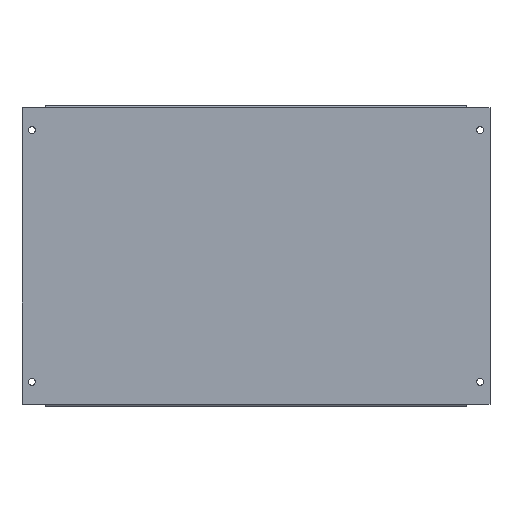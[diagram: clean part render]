
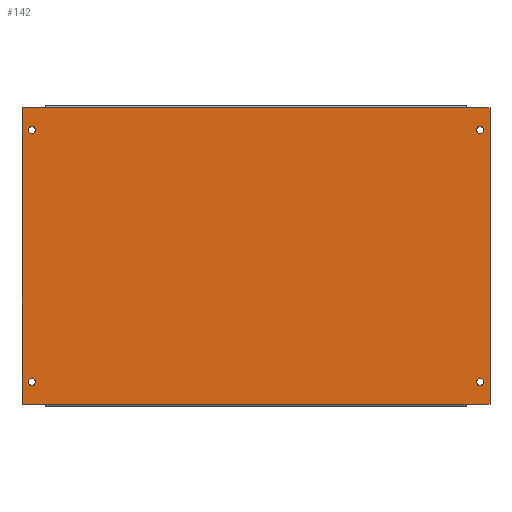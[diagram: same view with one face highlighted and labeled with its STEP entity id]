
A CAD part, top view. The second image highlights one B-rep face of the part: STEP entity #142.
In plain terms, the highlighted planar face has unit normal (0, 0, 1).
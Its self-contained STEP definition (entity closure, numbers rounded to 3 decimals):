
#5 = CARTESIAN_POINT ( 'NONE',  ( -232.5, 147.1, 1.2 ) ) ;
#11 = DIRECTION ( 'NONE',  ( -1., 0., 0. ) ) ;
#14 = DIRECTION ( 'NONE',  ( 1., 0., 0. ) ) ;
#17 = DIRECTION ( 'NONE',  ( 0., 0., -1. ) ) ;
#41 = EDGE_CURVE ( 'NONE', #316, #317, #172, .T. ) ;
#45 = EDGE_CURVE ( 'NONE', #310, #309, #673, .T. ) ;
#46 = EDGE_CURVE ( 'NONE', #312, #313, #91, .T. ) ;
#47 = EDGE_CURVE ( 'NONE', #317, #316, #100, .T. ) ;
#50 = EDGE_CURVE ( 'NONE', #305, #304, #638, .T. ) ;
#51 = EDGE_CURVE ( 'NONE', #307, #306, #639, .T. ) ;
#56 = EDGE_CURVE ( 'NONE', #308, #307, #634, .T. ) ;
#57 = EDGE_CURVE ( 'NONE', #309, #308, #628, .T. ) ;
#58 = EDGE_CURVE ( 'NONE', #304, #311, #623, .T. ) ;
#59 = EDGE_CURVE ( 'NONE', #327, #325, #95, .T. ) ;
#67 = CIRCLE ( 'NONE', #701, 3.5 ) ;
#70 = EDGE_CURVE ( 'NONE', #323, #321, #131, .T. ) ;
#89 = EDGE_CURVE ( 'NONE', #325, #327, #93, .T. ) ;
#90 = CIRCLE ( 'NONE', #697, 3.5 ) ;
#91 = CIRCLE ( 'NONE', #578, 3.5 ) ;
#93 = CIRCLE ( 'NONE', #588, 3.5 ) ;
#95 = CIRCLE ( 'NONE', #558, 3.5 ) ;
#100 = CIRCLE ( 'NONE', #587, 3.5 ) ;
#110 = FACE_OUTER_BOUND ( 'NONE', #490, .T. ) ;
#112 = FACE_BOUND ( 'NONE', #492, .T. ) ;
#113 = FACE_BOUND ( 'NONE', #489, .T. ) ;
#114 = AXIS2_PLACEMENT_3D ( 'NONE', #852, #853, #854 ) ;
#115 = FACE_BOUND ( 'NONE', #491, .T. ) ;
#131 = CIRCLE ( 'NONE', #586, 3.5 ) ;
#142 = ADVANCED_FACE ( 'NONE', ( #115, #112, #113, #110, #598 ), #851, .T. ) ;
#163 = EDGE_CURVE ( 'NONE', #321, #323, #67, .T. ) ;
#164 = EDGE_CURVE ( 'NONE', #311, #310, #921, .T. ) ;
#165 = EDGE_CURVE ( 'NONE', #306, #305, #924, .T. ) ;
#167 = EDGE_CURVE ( 'NONE', #313, #312, #90, .T. ) ;
#172 = CIRCLE ( 'NONE', #212, 3.5 ) ;
#212 = AXIS2_PLACEMENT_3D ( 'NONE', #610, #600, #684 ) ;
#304 = VERTEX_POINT ( 'NONE', #993 ) ;
#305 = VERTEX_POINT ( 'NONE', #994 ) ;
#306 = VERTEX_POINT ( 'NONE', #995 ) ;
#307 = VERTEX_POINT ( 'NONE', #996 ) ;
#308 = VERTEX_POINT ( 'NONE', #997 ) ;
#309 = VERTEX_POINT ( 'NONE', #998 ) ;
#310 = VERTEX_POINT ( 'NONE', #999 ) ;
#311 = VERTEX_POINT ( 'NONE', #1000 ) ;
#312 = VERTEX_POINT ( 'NONE', #1001 ) ;
#313 = VERTEX_POINT ( 'NONE', #1002 ) ;
#316 = VERTEX_POINT ( 'NONE', #1005 ) ;
#317 = VERTEX_POINT ( 'NONE', #1006 ) ;
#321 = VERTEX_POINT ( 'NONE', #1010 ) ;
#323 = VERTEX_POINT ( 'NONE', #1012 ) ;
#325 = VERTEX_POINT ( 'NONE', #1014 ) ;
#327 = VERTEX_POINT ( 'NONE', #1016 ) ;
#344 = ORIENTED_EDGE ( 'NONE', *, *, #163, .F. ) ;
#345 = ORIENTED_EDGE ( 'NONE', *, *, #41, .T. ) ;
#346 = ORIENTED_EDGE ( 'NONE', *, *, #164, .T. ) ;
#347 = ORIENTED_EDGE ( 'NONE', *, *, #70, .F. ) ;
#348 = ORIENTED_EDGE ( 'NONE', *, *, #47, .T. ) ;
#349 = ORIENTED_EDGE ( 'NONE', *, *, #46, .F. ) ;
#350 = ORIENTED_EDGE ( 'NONE', *, *, #167, .F. ) ;
#351 = ORIENTED_EDGE ( 'NONE', *, *, #57, .T. ) ;
#352 = ORIENTED_EDGE ( 'NONE', *, *, #45, .T. ) ;
#353 = ORIENTED_EDGE ( 'NONE', *, *, #56, .T. ) ;
#354 = ORIENTED_EDGE ( 'NONE', *, *, #51, .T. ) ;
#355 = ORIENTED_EDGE ( 'NONE', *, *, #165, .T. ) ;
#356 = ORIENTED_EDGE ( 'NONE', *, *, #50, .T. ) ;
#357 = ORIENTED_EDGE ( 'NONE', *, *, #58, .T. ) ;
#359 = ORIENTED_EDGE ( 'NONE', *, *, #59, .T. ) ;
#360 = ORIENTED_EDGE ( 'NONE', *, *, #89, .T. ) ;
#489 = EDGE_LOOP ( 'NONE', ( #349, #350 ) ) ;
#490 = EDGE_LOOP ( 'NONE', ( #346, #352, #351, #353, #354, #355, #356, #357 ) ) ;
#491 = EDGE_LOOP ( 'NONE', ( #344, #347 ) ) ;
#492 = EDGE_LOOP ( 'NONE', ( #345, #348 ) ) ;
#503 = EDGE_LOOP ( 'NONE', ( #360, #359 ) ) ;
#531 = DIRECTION ( 'NONE',  ( 1., 0., 0. ) ) ;
#532 = DIRECTION ( 'NONE',  ( 0., 0., 1. ) ) ;
#533 = CARTESIAN_POINT ( 'NONE',  ( 222.75, -125., 1.2 ) ) ;
#552 = VECTOR ( 'NONE', #11, 1000. ) ;
#556 = VECTOR ( 'NONE', #631, 1000. ) ;
#558 = AXIS2_PLACEMENT_3D ( 'NONE', #629, #17, #14 ) ;
#564 = VECTOR ( 'NONE', #636, 1000. ) ;
#570 = VECTOR ( 'NONE', #640, 1000. ) ;
#572 = VECTOR ( 'NONE', #633, 1000. ) ;
#577 = VECTOR ( 'NONE', #671, 1000. ) ;
#578 = AXIS2_PLACEMENT_3D ( 'NONE', #680, #670, #669 ) ;
#586 = AXIS2_PLACEMENT_3D ( 'NONE', #533, #532, #531 ) ;
#587 = AXIS2_PLACEMENT_3D ( 'NONE', #668, #667, #666 ) ;
#588 = AXIS2_PLACEMENT_3D ( 'NONE', #744, #745, #746 ) ;
#598 = FACE_BOUND ( 'NONE', #503, .T. ) ;
#600 = DIRECTION ( 'NONE',  ( 0., 0., -1. ) ) ;
#610 = CARTESIAN_POINT ( 'NONE',  ( 222.75, 125., 1.2 ) ) ;
#623 = LINE ( 'NONE', #5, #552 ) ;
#625 = CARTESIAN_POINT ( 'NONE',  ( -209.5, -147.1, 1.2 ) ) ;
#628 = LINE ( 'NONE', #625, #572 ) ;
#629 = CARTESIAN_POINT ( 'NONE',  ( -222.75, -125., 1.2 ) ) ;
#631 = DIRECTION ( 'NONE',  ( 1., 0., 0. ) ) ;
#632 = CARTESIAN_POINT ( 'NONE',  ( -232.5, -147.1, 1.2 ) ) ;
#633 = DIRECTION ( 'NONE',  ( 1., 0., 0. ) ) ;
#634 = LINE ( 'NONE', #632, #556 ) ;
#636 = DIRECTION ( 'NONE',  ( 0., 1., 0. ) ) ;
#638 = LINE ( 'NONE', #641, #570 ) ;
#639 = LINE ( 'NONE', #642, #564 ) ;
#640 = DIRECTION ( 'NONE',  ( -1., 0., 0. ) ) ;
#641 = CARTESIAN_POINT ( 'NONE',  ( 209.5, 147.1, 1.2 ) ) ;
#642 = CARTESIAN_POINT ( 'NONE',  ( 232.5, 149.5, 1.2 ) ) ;
#666 = DIRECTION ( 'NONE',  ( 1., 0., 0. ) ) ;
#667 = DIRECTION ( 'NONE',  ( 0., 0., -1. ) ) ;
#668 = CARTESIAN_POINT ( 'NONE',  ( 222.75, 125., 1.2 ) ) ;
#669 = DIRECTION ( 'NONE',  ( 1., 0., 0. ) ) ;
#670 = DIRECTION ( 'NONE',  ( 0., 0., 1. ) ) ;
#671 = DIRECTION ( 'NONE',  ( 1., 0., 0. ) ) ;
#672 = CARTESIAN_POINT ( 'NONE',  ( -232.5, -147.1, 1.2 ) ) ;
#673 = LINE ( 'NONE', #672, #577 ) ;
#680 = CARTESIAN_POINT ( 'NONE',  ( -222.75, 125., 1.2 ) ) ;
#684 = DIRECTION ( 'NONE',  ( 1., 0., 0. ) ) ;
#697 = AXIS2_PLACEMENT_3D ( 'NONE', #920, #930, #931 ) ;
#701 = AXIS2_PLACEMENT_3D ( 'NONE', #911, #918, #919 ) ;
#708 = VECTOR ( 'NONE', #923, 1000. ) ;
#709 = VECTOR ( 'NONE', #926, 1000. ) ;
#744 = CARTESIAN_POINT ( 'NONE',  ( -222.75, -125., 1.2 ) ) ;
#745 = DIRECTION ( 'NONE',  ( 0., 0., -1. ) ) ;
#746 = DIRECTION ( 'NONE',  ( 1., 0., 0. ) ) ;
#851 = PLANE ( 'NONE',  #114 ) ;
#852 = CARTESIAN_POINT ( 'NONE',  ( -232.5, 149.5, 1.2 ) ) ;
#853 = DIRECTION ( 'NONE',  ( 0., 0., 1. ) ) ;
#854 = DIRECTION ( 'NONE',  ( 1., 0., 0. ) ) ;
#911 = CARTESIAN_POINT ( 'NONE',  ( 222.75, -125., 1.2 ) ) ;
#918 = DIRECTION ( 'NONE',  ( 0., 0., 1. ) ) ;
#919 = DIRECTION ( 'NONE',  ( 1., 0., 0. ) ) ;
#920 = CARTESIAN_POINT ( 'NONE',  ( -222.75, 125., 1.2 ) ) ;
#921 = LINE ( 'NONE', #922, #708 ) ;
#922 = CARTESIAN_POINT ( 'NONE',  ( -232.5, 149.5, 1.2 ) ) ;
#923 = DIRECTION ( 'NONE',  ( 0., -1., 0. ) ) ;
#924 = LINE ( 'NONE', #925, #709 ) ;
#925 = CARTESIAN_POINT ( 'NONE',  ( -232.5, 147.1, 1.2 ) ) ;
#926 = DIRECTION ( 'NONE',  ( -1., 0., 0. ) ) ;
#930 = DIRECTION ( 'NONE',  ( 0., 0., 1. ) ) ;
#931 = DIRECTION ( 'NONE',  ( 1., 0., 0. ) ) ;
#993 = CARTESIAN_POINT ( 'NONE',  ( -209.5, 147.1, 1.2 ) ) ;
#994 = CARTESIAN_POINT ( 'NONE',  ( 209.5, 147.1, 1.2 ) ) ;
#995 = CARTESIAN_POINT ( 'NONE',  ( 232.5, 147.1, 1.2 ) ) ;
#996 = CARTESIAN_POINT ( 'NONE',  ( 232.5, -147.1, 1.2 ) ) ;
#997 = CARTESIAN_POINT ( 'NONE',  ( 209.5, -147.1, 1.2 ) ) ;
#998 = CARTESIAN_POINT ( 'NONE',  ( -209.5, -147.1, 1.2 ) ) ;
#999 = CARTESIAN_POINT ( 'NONE',  ( -232.5, -147.1, 1.2 ) ) ;
#1000 = CARTESIAN_POINT ( 'NONE',  ( -232.5, 147.1, 1.2 ) ) ;
#1001 = CARTESIAN_POINT ( 'NONE',  ( -219.25, 125., 1.2 ) ) ;
#1002 = CARTESIAN_POINT ( 'NONE',  ( -226.25, 125., 1.2 ) ) ;
#1005 = CARTESIAN_POINT ( 'NONE',  ( 226.25, 125., 1.2 ) ) ;
#1006 = CARTESIAN_POINT ( 'NONE',  ( 219.25, 125., 1.2 ) ) ;
#1010 = CARTESIAN_POINT ( 'NONE',  ( 226.25, -125., 1.2 ) ) ;
#1012 = CARTESIAN_POINT ( 'NONE',  ( 219.25, -125., 1.2 ) ) ;
#1014 = CARTESIAN_POINT ( 'NONE',  ( -219.25, -125., 1.2 ) ) ;
#1016 = CARTESIAN_POINT ( 'NONE',  ( -226.25, -125., 1.2 ) ) ;
